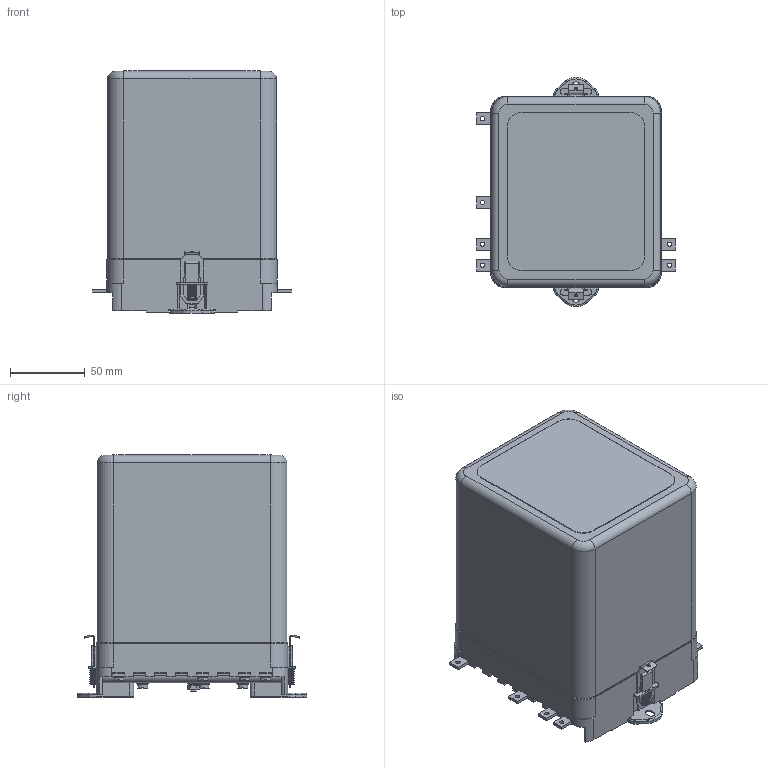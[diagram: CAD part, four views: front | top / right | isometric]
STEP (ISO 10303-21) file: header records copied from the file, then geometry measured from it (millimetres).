
FILE_DESCRIPTION(('STEP AP214'), '1');
FILE_NAME('ÐÍ-73, ÐÍ-74 ïåðåäí. ïðèñîåä', '', ('UNSPECIFIED'), ('UNSPECIFIED'), 'ASCON STEP Converter 1.3', 'ASCON Math Kernel', '');
FILE_SCHEMA(('AUTOMOTIVE_DESIGN { 1 0 10303 214 3 1 1}'));
Length unit declared in the file: millimetre
Bounding box: 133 x 153.6 x 162.3 mm (x, y, z)
Volume: 315543.9 mm3; surface area: 209528.7 mm2
Topology: 1 solids, 1 shells, 1296 faces, 3526 edges, 2236 vertices
Faces by surface type: plane 803, cylinder 322, torus 106, cone 42, bspline 14, sphere 9
Full cylindrical faces by diameter (mm): 2 x2, 2.917 x6, 3.3 x1, 3.5 x2, 4 x19, 4.3 x18, 4.5 x5, 5.5 x11, 8 x12
Entity records: 62643 total; most frequent: CARTESIAN_POINT 19973, ORIENTED_EDGE 6752, DIRECTION 6568, EDGE_CURVE 3376, AXIS2_PLACEMENT_3D 2267, VERTEX_POINT 2229, LINE 2034, VECTOR 2034
